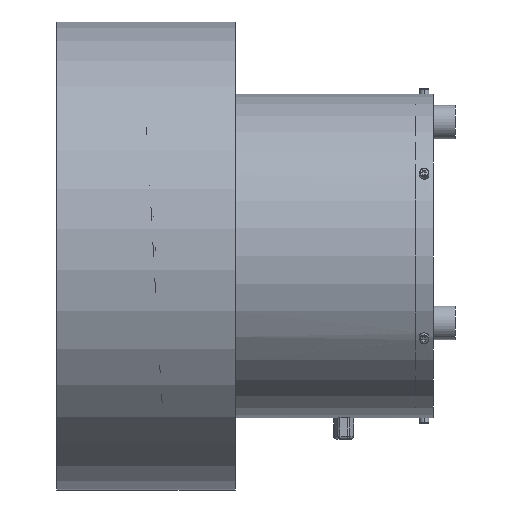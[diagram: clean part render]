
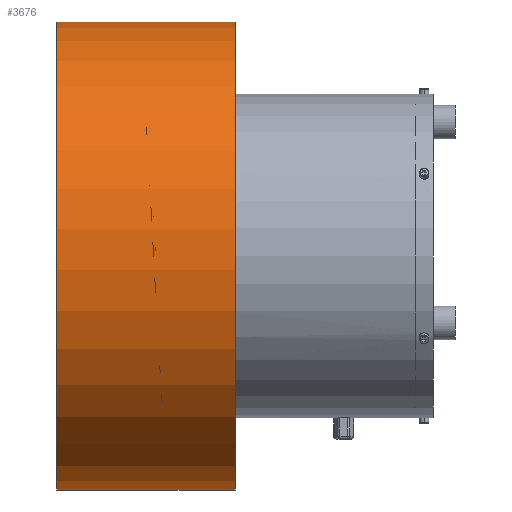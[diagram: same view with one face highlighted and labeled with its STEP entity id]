
A CAD part, left-side view. The second image highlights one B-rep face of the part: STEP entity #3676.
In plain terms, the highlighted cylindrical face has radius 210 mm (diameter 420 mm), a partial arc.
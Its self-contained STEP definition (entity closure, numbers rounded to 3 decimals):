
#182 = VERTEX_POINT ( 'NONE', #7676 ) ;
#267 = DIRECTION ( 'NONE',  ( 0., -1., 0. ) ) ;
#345 = LINE ( 'NONE', #8418, #7359 ) ;
#548 = DIRECTION ( 'NONE',  ( 0., -1., 0. ) ) ;
#787 = EDGE_CURVE ( 'NONE', #8129, #7060, #345, .T. ) ;
#809 = AXIS2_PLACEMENT_3D ( 'NONE', #3082, #4411, #2563 ) ;
#962 = AXIS2_PLACEMENT_3D ( 'NONE', #8023, #5292, #7414 ) ;
#987 = CIRCLE ( 'NONE', #3422, 210. ) ;
#2563 = DIRECTION ( 'NONE',  ( 0., 0., -1. ) ) ;
#2604 = EDGE_CURVE ( 'NONE', #182, #6631, #3648, .T. ) ;
#2734 = DIRECTION ( 'NONE',  ( 0., 0., -1. ) ) ;
#3082 = CARTESIAN_POINT ( 'NONE',  ( 0., 160., 0. ) ) ;
#3183 = CARTESIAN_POINT ( 'NONE',  ( 0., 0., 210. ) ) ;
#3265 = ORIENTED_EDGE ( 'NONE', *, *, #787, .F. ) ;
#3422 = AXIS2_PLACEMENT_3D ( 'NONE', #8199, #3443, #2734 ) ;
#3443 = DIRECTION ( 'NONE',  ( 0., -1., 0. ) ) ;
#3449 = VECTOR ( 'NONE', #548, 1000. ) ;
#3548 = CIRCLE ( 'NONE', #809, 210. ) ;
#3648 = LINE ( 'NONE', #7879, #3449 ) ;
#3676 = ADVANCED_FACE ( 'NONE', ( #5525 ), #8049, .T. ) ;
#4411 = DIRECTION ( 'NONE',  ( 0., -1., 0. ) ) ;
#4870 = EDGE_LOOP ( 'NONE', ( #8596, #5024, #5538, #3265 ) ) ;
#5024 = ORIENTED_EDGE ( 'NONE', *, *, #2604, .T. ) ;
#5292 = DIRECTION ( 'NONE',  ( 0., -1., 0. ) ) ;
#5525 = FACE_OUTER_BOUND ( 'NONE', #4870, .T. ) ;
#5538 = ORIENTED_EDGE ( 'NONE', *, *, #8155, .F. ) ;
#6631 = VERTEX_POINT ( 'NONE', #6980 ) ;
#6638 = CARTESIAN_POINT ( 'NONE',  ( 0., 160., 210. ) ) ;
#6884 = EDGE_CURVE ( 'NONE', #8129, #182, #3548, .T. ) ;
#6980 = CARTESIAN_POINT ( 'NONE',  ( 0., 0., -210. ) ) ;
#7060 = VERTEX_POINT ( 'NONE', #3183 ) ;
#7359 = VECTOR ( 'NONE', #267, 1000. ) ;
#7414 = DIRECTION ( 'NONE',  ( 0., 0., 1. ) ) ;
#7676 = CARTESIAN_POINT ( 'NONE',  ( 0., 160., -210. ) ) ;
#7879 = CARTESIAN_POINT ( 'NONE',  ( 0., 160., -210. ) ) ;
#8023 = CARTESIAN_POINT ( 'NONE',  ( 0., 160., 0. ) ) ;
#8049 = CYLINDRICAL_SURFACE ( 'NONE', #962, 210. ) ;
#8129 = VERTEX_POINT ( 'NONE', #6638 ) ;
#8155 = EDGE_CURVE ( 'NONE', #7060, #6631, #987, .T. ) ;
#8199 = CARTESIAN_POINT ( 'NONE',  ( 0., 0., 0. ) ) ;
#8418 = CARTESIAN_POINT ( 'NONE',  ( 0., 160., 210. ) ) ;
#8596 = ORIENTED_EDGE ( 'NONE', *, *, #6884, .T. ) ;
